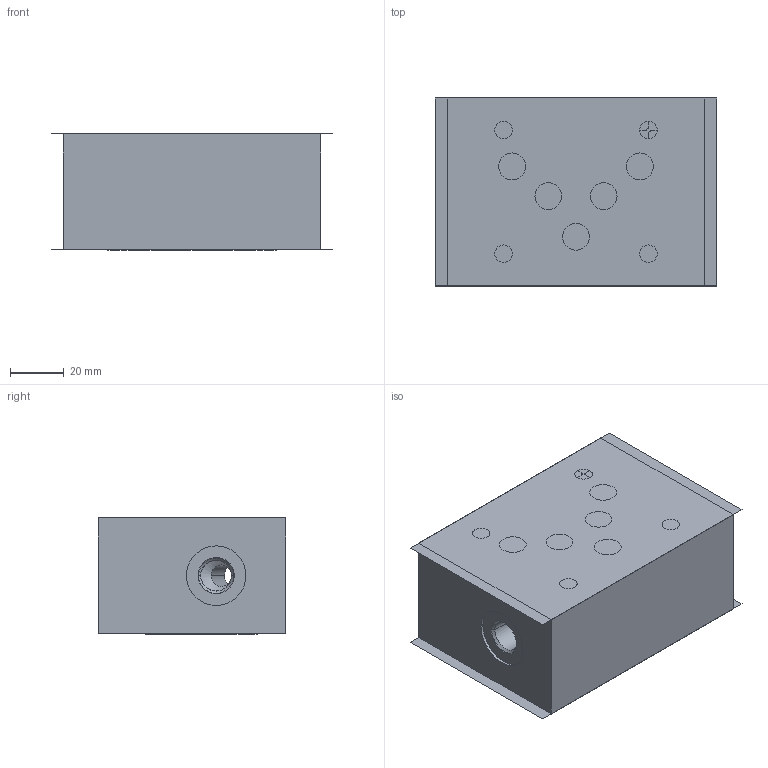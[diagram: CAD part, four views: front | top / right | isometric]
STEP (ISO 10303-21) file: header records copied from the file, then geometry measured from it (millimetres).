
FILE_DESCRIPTION((''),'2;1');
FILE_NAME('421711_ASM','2023-10-11T',('l.soukupova'),(''),'PRO/ENGINEER BY PARAMETRIC TECHNOLOGY CORPORATION, 2015440','PRO/ENGINEER BY PARAMETRIC TECHNOLOGY CORPORATION, 2015440','');
FILE_SCHEMA(('AUTOMOTIVE_DESIGN { 1 0 10303 214 1 1 1 1 }'));
Length unit declared in the file: millimetre
Products named in the file (7): 246002; DKAR00014_N70_AF0; DKAR00014_N70_AF1; DKAR00014_N70_AF2; DKAR00014_N70_AF3; DKAR00014_N70_AF4; 421711_ASM
Assembly tree (6 placements, depth 2):
  421711_ASM
    246002
    DKAR00014_N70_AF0
    DKAR00014_N70_AF1
    DKAR00014_N70_AF2
    DKAR00014_N70_AF3
    DKAR00014_N70_AF4
Bounding box: 105 x 70 x 43.28 mm (x, y, z)
Volume: 259341.4 mm3; surface area: 56601.8 mm2
Topology: 6 solids, 14 shells, 101 faces, 418 edges, 436 vertices
Faces by surface type: cylinder 64, plane 31, cone 6
Entity records: 7031 total; most frequent: CARTESIAN_POINT 1225, DIRECTION 868, PRESENTATION_STYLE_ASSIGNMENT 526, STYLED_ITEM 521, CURVE_STYLE 479, ORIENTED_EDGE 468, AXIS2_PLACEMENT_3D 311, EDGE_CURVE 250
